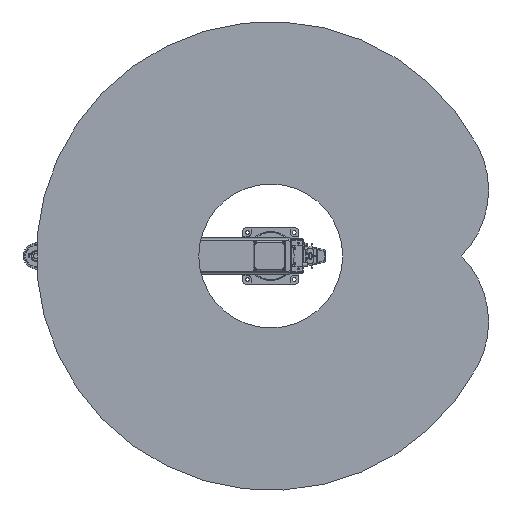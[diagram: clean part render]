
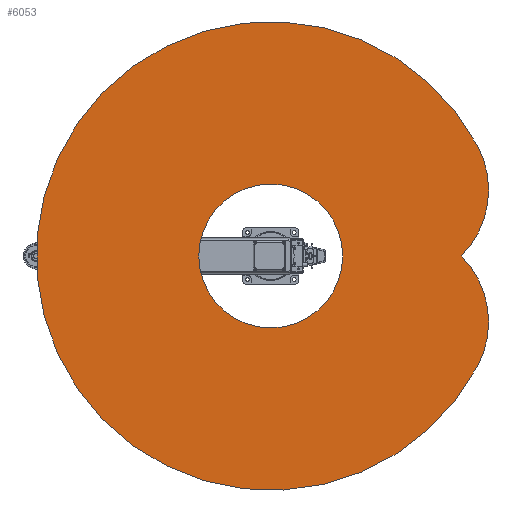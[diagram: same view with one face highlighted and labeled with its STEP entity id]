
A CAD part, front view. The second image highlights one B-rep face of the part: STEP entity #6053.
In plain terms, the highlighted planar face has unit normal (0, -1, 0).
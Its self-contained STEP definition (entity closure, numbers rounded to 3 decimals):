
#6053 = ADVANCED_FACE( '', ( #13498, #13499 ), #13500, .F. );
#13498 = FACE_BOUND( '', #22834, .T. );
#13499 = FACE_OUTER_BOUND( '', #22835, .T. );
#13500 = PLANE( '', #22836 );
#22834 = EDGE_LOOP( '', ( #39986 ) );
#22835 = EDGE_LOOP( '', ( #39987, #39988, #39989 ) );
#22836 = AXIS2_PLACEMENT_3D( '', #39990, #39991, #39992 );
#39986 = ORIENTED_EDGE( '', *, *, #52923, .T. );
#39987 = ORIENTED_EDGE( '', *, *, #50278, .F. );
#39988 = ORIENTED_EDGE( '', *, *, #46375, .F. );
#39989 = ORIENTED_EDGE( '', *, *, #47785, .F. );
#39990 = CARTESIAN_POINT( '', ( 140.842, 0., 264.885 ) );
#39991 = DIRECTION( '', ( 0., 1., 0. ) );
#39992 = DIRECTION( '', ( 0., 0., 1. ) );
#46375 = EDGE_CURVE( '', #54287, #54288, #54289, .T. );
#47785 = EDGE_CURVE( '', #56797, #54287, #56798, .T. );
#50278 = EDGE_CURVE( '', #54288, #56797, #60810, .T. );
#52923 = EDGE_CURVE( '', #64433, #64433, #64434, .T. );
#54287 = VERTEX_POINT( '', #66099 );
#54288 = VERTEX_POINT( '', #66100 );
#54289 = CIRCLE( '', #66101, 400. );
#56797 = VERTEX_POINT( '', #69976 );
#56798 = CIRCLE( '', #69977, 1000. );
#60810 = CIRCLE( '', #76806, 400. );
#64433 = VERTEX_POINT( '', #82889 );
#64434 = CIRCLE( '', #82890, 307. );
#66099 = CARTESIAN_POINT( '', ( -468.809, 0., 883.299 ) );
#66100 = CARTESIAN_POINT( '', ( 0., 0., 813.767 ) );
#66101 = AXIS2_PLACEMENT_3D( '', #85172, #85173, #85174 );
#69976 = CARTESIAN_POINT( '', ( 468.809, 0., 883.299 ) );
#69977 = AXIS2_PLACEMENT_3D( '', #87167, #87168, #87169 );
#76806 = AXIS2_PLACEMENT_3D( '', #90133, #90134, #90135 );
#82889 = CARTESIAN_POINT( '', ( 307., 0., 0. ) );
#82890 = AXIS2_PLACEMENT_3D( '', #93066, #93067, #93068 );
#85172 = CARTESIAN_POINT( '', ( -281.683, 0., 529.769 ) );
#85173 = DIRECTION( '', ( 0., 1., 0. ) );
#85174 = DIRECTION( '', ( 1., 0., 0. ) );
#87167 = CARTESIAN_POINT( '', ( 0., 0., 0. ) );
#87168 = DIRECTION( '', ( 0., 1., 0. ) );
#87169 = DIRECTION( '', ( 1., 0., 0. ) );
#90133 = CARTESIAN_POINT( '', ( 281.683, 0., 529.769 ) );
#90134 = DIRECTION( '', ( 0., 1., 0. ) );
#90135 = DIRECTION( '', ( 1., 0., 0. ) );
#93066 = CARTESIAN_POINT( '', ( 0., 0., 0. ) );
#93067 = DIRECTION( '', ( 0., 1., 0. ) );
#93068 = DIRECTION( '', ( 1., 0., 0. ) );
